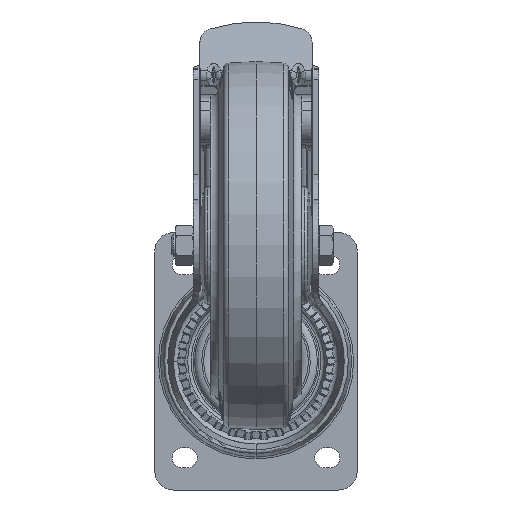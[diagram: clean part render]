
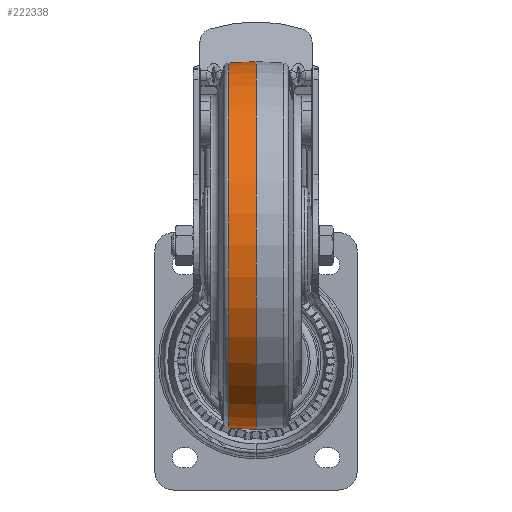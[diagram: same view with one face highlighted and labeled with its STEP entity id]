
A CAD part, front view. The second image highlights one B-rep face of the part: STEP entity #222338.
In plain terms, the highlighted conical face has half-angle 3 degrees and reference radius 99.611 mm.
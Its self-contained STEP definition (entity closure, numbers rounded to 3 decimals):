
#6664 = FACE_OUTER_BOUND ( 'NONE', #253837, .T. ) ;
#13514 = CIRCLE ( 'NONE', #214719, 99.222 ) ;
#29001 = ORIENTED_EDGE ( 'NONE', *, *, #34540, .F. ) ;
#30183 = LINE ( 'NONE', #174238, #210972 ) ;
#34540 = EDGE_CURVE ( 'NONE', #116975, #203761, #13514, .T. ) ;
#45747 = CARTESIAN_POINT ( 'NONE',  ( -14.854, 99.222, 0. ) ) ;
#47441 = LINE ( 'NONE', #212539, #84018 ) ;
#52559 = CONICAL_SURFACE ( 'NONE', #167323, 99.611, 0.052 ) ;
#59551 = DIRECTION ( 'NONE',  ( -0.999, -0.052, 0. ) ) ;
#69054 = ORIENTED_EDGE ( 'NONE', *, *, #150210, .T. ) ;
#80354 = CARTESIAN_POINT ( 'NONE',  ( 0., 100., 0. ) ) ;
#84018 = VECTOR ( 'NONE', #132985, 1000. ) ;
#88444 = ORIENTED_EDGE ( 'NONE', *, *, #203414, .T. ) ;
#96849 = CIRCLE ( 'NONE', #214259, 100. ) ;
#105154 = DIRECTION ( 'NONE',  ( 0., -1., 0. ) ) ;
#115347 = DIRECTION ( 'NONE',  ( 0., 1., 0. ) ) ;
#116975 = VERTEX_POINT ( 'NONE', #196157 ) ;
#121542 = CARTESIAN_POINT ( 'NONE',  ( 0., -100., 0. ) ) ;
#132985 = DIRECTION ( 'NONE',  ( -0.999, 0.052, 0. ) ) ;
#145417 = DIRECTION ( 'NONE',  ( -1., 0., 0. ) ) ;
#150210 = EDGE_CURVE ( 'NONE', #162318, #203761, #30183, .T. ) ;
#153924 = DIRECTION ( 'NONE',  ( 1., 0., 0. ) ) ;
#162318 = VERTEX_POINT ( 'NONE', #80354 ) ;
#162930 = ORIENTED_EDGE ( 'NONE', *, *, #194693, .F. ) ;
#167323 = AXIS2_PLACEMENT_3D ( 'NONE', #235196, #153924, #115347 ) ;
#169310 = DIRECTION ( 'NONE',  ( -1., 0., 0. ) ) ;
#174238 = CARTESIAN_POINT ( 'NONE',  ( 0., 100., 0. ) ) ;
#194693 = EDGE_CURVE ( 'NONE', #210164, #116975, #47441, .T. ) ;
#196157 = CARTESIAN_POINT ( 'NONE',  ( -14.854, -99.222, 0. ) ) ;
#203414 = EDGE_CURVE ( 'NONE', #210164, #162318, #96849, .T. ) ;
#203761 = VERTEX_POINT ( 'NONE', #45747 ) ;
#205282 = CARTESIAN_POINT ( 'NONE',  ( 0., 0., 0. ) ) ;
#210164 = VERTEX_POINT ( 'NONE', #121542 ) ;
#210972 = VECTOR ( 'NONE', #59551, 1000. ) ;
#212539 = CARTESIAN_POINT ( 'NONE',  ( 0., -100., 0. ) ) ;
#214259 = AXIS2_PLACEMENT_3D ( 'NONE', #205282, #145417, #105154 ) ;
#214719 = AXIS2_PLACEMENT_3D ( 'NONE', #248154, #169310, #245671 ) ;
#222338 = ADVANCED_FACE ( 'NONE', ( #6664 ), #52559, .T. ) ;
#235196 = CARTESIAN_POINT ( 'NONE',  ( -7.427, 0., 0. ) ) ;
#245671 = DIRECTION ( 'NONE',  ( 0., -1., 0. ) ) ;
#248154 = CARTESIAN_POINT ( 'NONE',  ( -14.854, 0., 0. ) ) ;
#253837 = EDGE_LOOP ( 'NONE', ( #88444, #69054, #29001, #162930 ) ) ;
